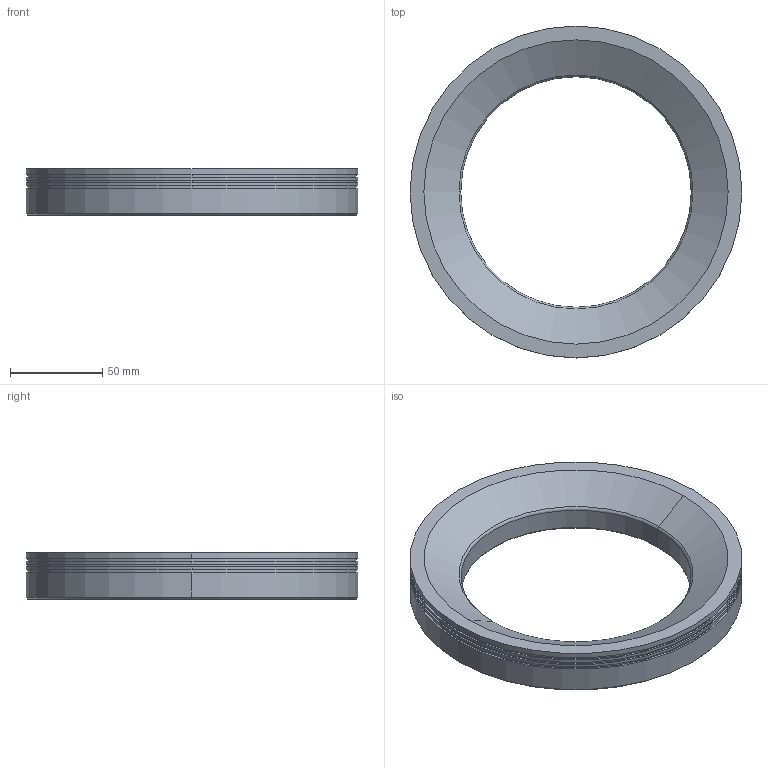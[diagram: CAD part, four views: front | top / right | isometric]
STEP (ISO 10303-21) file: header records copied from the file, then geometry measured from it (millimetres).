
FILE_DESCRIPTION((''),'2;1');
FILE_NAME('DRL7030','2020-03-28T',('ASUS'),(''),'PRO/ENGINEER BY PARAMETRIC TECHNOLOGY CORPORATION, 2008380','PRO/ENGINEER BY PARAMETRIC TECHNOLOGY CORPORATION, 2008380','');
FILE_SCHEMA(('CONFIG_CONTROL_DESIGN'));
Length unit declared in the file: millimetre
Products named in the file (1): DRL7030
Bounding box: 180 x 180 x 25 mm (x, y, z)
Volume: 275937.5 mm3; surface area: 50324.7 mm2
Topology: 1 solids, 5 shells, 68 faces, 152 edges, 92 vertices
Faces by surface type: cylinder 32, cone 22, plane 12, torus 2
Entity records: 1901 total; most frequent: DIRECTION 372, CARTESIAN_POINT 305, ORIENTED_EDGE 272, AXIS2_PLACEMENT_3D 159, EDGE_CURVE 144, VERTEX_POINT 92, CIRCLE 90, EDGE_LOOP 84
